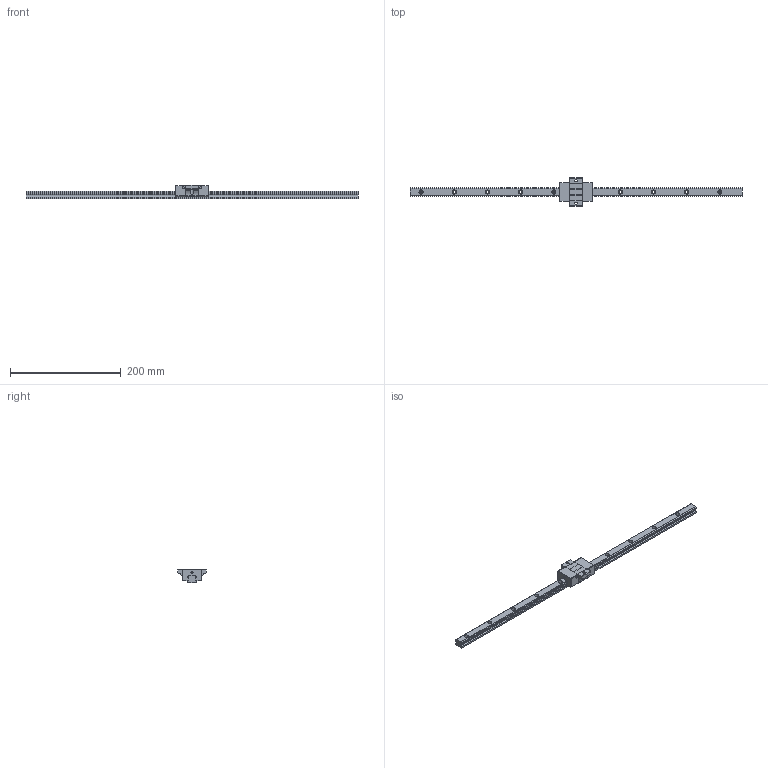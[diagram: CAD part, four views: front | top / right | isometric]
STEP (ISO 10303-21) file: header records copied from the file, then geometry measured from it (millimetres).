
FILE_DESCRIPTION (( 'STEP AP203' ), '1' );
FILE_NAME ('TRS15FS-WZ.STEP', '2024-05-21T09:00:59', ( '' ), ( '' ), 'SwSTEP 2.0', 'SolidWorks 2022', '' );
FILE_SCHEMA (( 'CONFIG_CONTROL_DESIGN' ));
Length unit declared in the file: millimetre
Products named in the file (1): TRS15FS-WZ
Bounding box: 600 x 52 x 24 mm (x, y, z)
Volume: 136440.2 mm3; surface area: 47282.3 mm2
Topology: 2 solids, 2 shells, 222 faces, 590 edges, 384 vertices
Faces by surface type: cylinder 116, plane 102, sphere 4
Entity records: 7291 total; most frequent: CARTESIAN_POINT 1503, DIRECTION 1226, ORIENTED_EDGE 1172, EDGE_CURVE 586, AXIS2_PLACEMENT_3D 437, VERTEX_POINT 384, LINE 352, VECTOR 352
